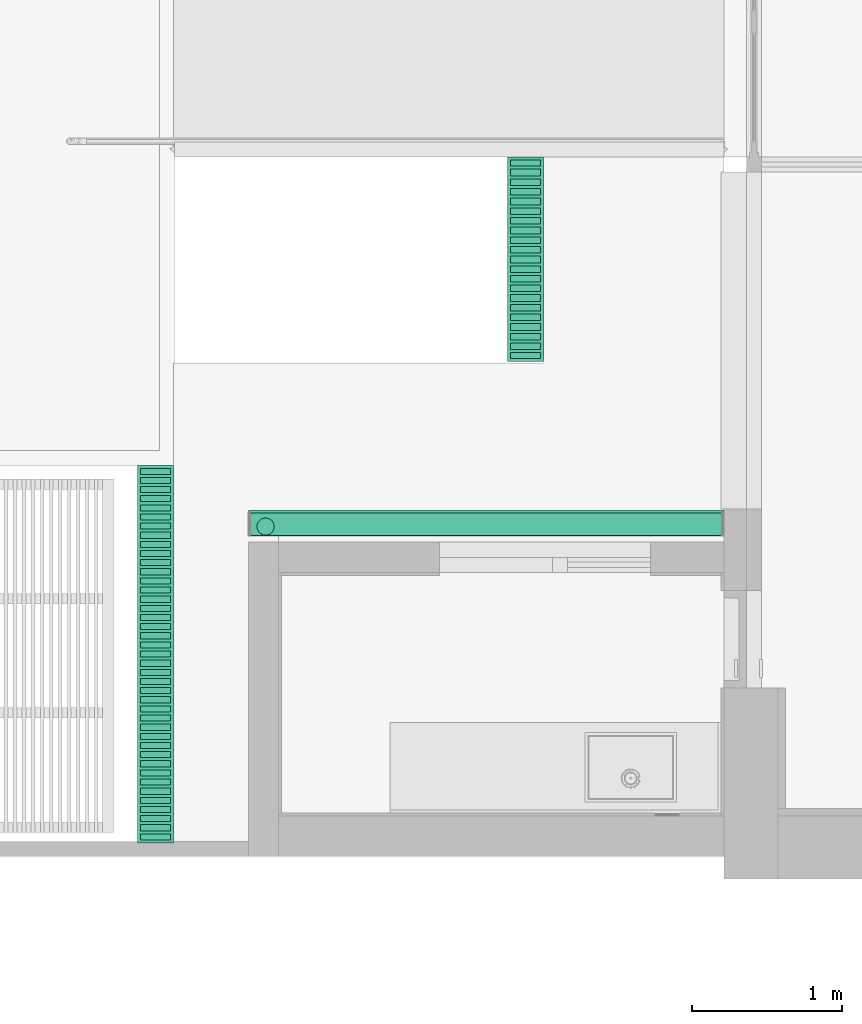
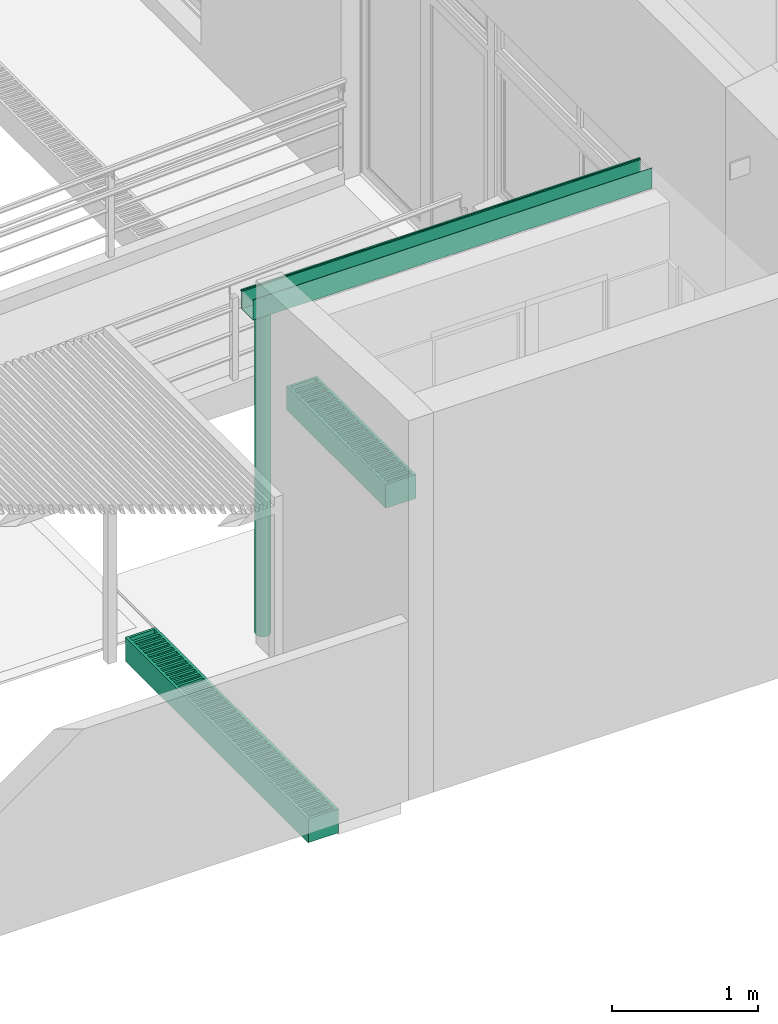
# One storey, part 59 of 75: 2 flow segments, 2 flow terminals.
"""IFC2X3 building model written with IfcOpenShell, lengths in metres."""

from ifc_helpers import new_model, entity, si_unit, converted_unit, derived_unit, direction, frame, origin, origin_2d_with_axis, place, context, subcontext, project, spatial, polyline, rectangle, circle, outline, extrude, source, transform, mapped, material, material_list, type_object, type_shapes, element, save


model = new_model("IFC2X3")

# Units and contexts
model_context = context("Model", 3, precision=1e-05, world=origin(), true_north=direction((6.12303176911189e-17, 1.0)))
body_context = subcontext(model_context, "Body", "Model", "MODEL_VIEW")
ifc_project = project(units=[si_unit("LENGTHUNIT", "METRE"), si_unit("AREAUNIT", "SQUARE_METRE"), si_unit("VOLUMEUNIT", "CUBIC_METRE"), converted_unit("PLANEANGLEUNIT", "DEGREE", entity("IfcRatioMeasure", 0.0174532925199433), si_unit("PLANEANGLEUNIT", "RADIAN"), dimensions=[0, 0, 0, 0, 0, 0, 0]), si_unit("MASSUNIT", "GRAM", prefix="KILO"), derived_unit("MASSDENSITYUNIT", [(si_unit("MASSUNIT", "GRAM", prefix="KILO"), 1), (si_unit("LENGTHUNIT", "METRE"), -3)]), derived_unit("MOMENTOFINERTIAUNIT", [(si_unit("LENGTHUNIT", "METRE"), 4)]), si_unit("TIMEUNIT", "SECOND"), si_unit("FREQUENCYUNIT", "HERTZ"), si_unit("THERMODYNAMICTEMPERATUREUNIT", "DEGREE_CELSIUS"), derived_unit("THERMALTRANSMITTANCEUNIT", [(si_unit("MASSUNIT", "GRAM", prefix="KILO"), 1), (si_unit("THERMODYNAMICTEMPERATUREUNIT", "KELVIN"), -1), (si_unit("TIMEUNIT", "SECOND"), -3)]), derived_unit("VOLUMETRICFLOWRATEUNIT", [(si_unit("LENGTHUNIT", "METRE"), 3), (si_unit("TIMEUNIT", "SECOND"), -1)]), si_unit("ELECTRICCURRENTUNIT", "AMPERE"), si_unit("ELECTRICVOLTAGEUNIT", "VOLT"), si_unit("POWERUNIT", "WATT"), si_unit("FORCEUNIT", "NEWTON", prefix="KILO"), si_unit("ILLUMINANCEUNIT", "LUX"), si_unit("LUMINOUSFLUXUNIT", "LUMEN"), si_unit("LUMINOUSINTENSITYUNIT", "CANDELA"), derived_unit("USERDEFINED", [(si_unit("MASSUNIT", "GRAM", prefix="KILO"), -1), (si_unit("LENGTHUNIT", "METRE"), -2), (si_unit("TIMEUNIT", "SECOND"), 3), (si_unit("LUMINOUSFLUXUNIT", "LUMEN"), 1)]), derived_unit("LINEARVELOCITYUNIT", [(si_unit("LENGTHUNIT", "METRE"), 1), (si_unit("TIMEUNIT", "SECOND"), -1)]), si_unit("PRESSUREUNIT", "PASCAL"), derived_unit("USERDEFINED", [(si_unit("LENGTHUNIT", "METRE"), -2), (si_unit("MASSUNIT", "GRAM", prefix="KILO"), 1), (si_unit("TIMEUNIT", "SECOND"), -2)]), derived_unit("LINEARFORCEUNIT", [(si_unit("MASSUNIT", "GRAM", prefix="KILO"), 1), (si_unit("LENGTHUNIT", "METRE"), 1), (si_unit("TIMEUNIT", "SECOND"), -2), (si_unit("LENGTHUNIT", "METRE"), -1)]), derived_unit("PLANARFORCEUNIT", [(si_unit("MASSUNIT", "GRAM", prefix="KILO"), 1), (si_unit("LENGTHUNIT", "METRE"), 1), (si_unit("TIMEUNIT", "SECOND"), -2), (si_unit("LENGTHUNIT", "METRE"), -2)])], contexts=[model_context])

# Site, building, storey
site_placement = place(None, origin())
site = spatial("IfcSite", under=ifc_project, at=site_placement, Name="Superficie", CompositionType="ELEMENT")
building_placement = place(site_placement, origin())
building = spatial("IfcBuilding", under=site, at=building_placement, Name="Telegestiones", CompositionType="ELEMENT")
storey_placement = place(building_placement, origin())
storey = spatial("IfcBuildingStorey", under=building, at=storey_placement, Name="Nivel 0_NPT", CompositionType="ELEMENT", Elevation=0.0)

# Flow segment
pipe_segment_type_1 = type_object("IfcPipeSegmentType", Name="Canalón:Canalón", PredefinedType="GUTTER")
shared_shape_1 = source(origin(), body_context, "Body", "SweptSolid", [
    extrude(outline(polyline([(-0.115532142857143, -0.110996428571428), (0.0417678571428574, -0.110996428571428), (0.0417678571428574, 0.0336035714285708), (0.054467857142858, 0.0336035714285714), (0.054467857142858, 0.0463035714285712), (0.0417678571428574, 0.0463035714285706), (0.0417678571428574, 0.0431285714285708), (0.0512928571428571, 0.0431285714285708), (0.0512928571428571, 0.0367785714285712), (0.0385928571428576, 0.0367785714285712), (0.0385928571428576, -0.107821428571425), (-0.112357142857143, -0.107821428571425), (-0.112357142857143, 0.0590035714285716), (-0.115532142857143, 0.0590035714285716), (-0.115532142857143, -0.110996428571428)])), frame((-7.64518737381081, -2.11086062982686, 2.64118381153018), z_axis=(1.0, 0.0, 0.0), x_axis=(0.0, 1.0, 0.0)), (0.0, 0.0, 1.0), 3.15999999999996),
])
type_shapes(pipe_segment_type_1, [shared_shape_1])
flow_segment_1_placement = place(storey_placement, origin())
element("IfcFlowSegment", 1, at=flow_segment_1_placement, inside=storey, type_object=pipe_segment_type_1, Name="Canalón:Canalón", ObjectType="Canalón:Canalón", context=body_context, shape_type="MappedRepresentation", body=[
    mapped(shared_shape_1, transform((0.0, 0.0, 0.0), scale=1.0)),
])

# Flow terminals
ifc_material = material(Name="Acero")
ifc_material_list_1 = material_list([ifc_material, ifc_material, ifc_material, ifc_material, ifc_material, ifc_material, ifc_material, ifc_material, ifc_material, ifc_material, ifc_material, ifc_material, ifc_material, ifc_material, ifc_material, ifc_material, ifc_material, ifc_material, ifc_material, ifc_material, ifc_material, ifc_material])
ifc_material_list_2 = material_list([ifc_material, ifc_material, ifc_material, ifc_material, ifc_material, ifc_material, ifc_material, ifc_material, ifc_material, ifc_material, ifc_material, ifc_material, ifc_material, ifc_material, ifc_material, ifc_material, ifc_material, ifc_material, ifc_material, ifc_material, ifc_material, ifc_material])
distribution_element_type_1 = type_object("IfcDistributionElementType", Name="ARQ-RE-EX-Ace:L=1.36m", material=ifc_material_list_2)
shared_shape_2 = source(origin(), body_context, "Body", "SweptSolid", [
    extrude(rectangle(XDim=0.0200000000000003, YDim=0.200000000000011, at=origin_2d_with_axis()), frame((0.54578947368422, 0.0, -0.020000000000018), z_axis=(0.0, 0.0, 1.0), x_axis=(-1.0, 0.0, 0.0)), (0.0, 0.0, 1.0), 0.02),
    extrude(rectangle(XDim=0.0200000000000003, YDim=0.200000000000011, at=origin_2d_with_axis()), frame((0.481578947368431, 0.0, -0.020000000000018), z_axis=(0.0, 0.0, 1.0), x_axis=(-1.0, 0.0, 0.0)), (0.0, 0.0, 1.0), 0.02),
    extrude(rectangle(XDim=0.0200000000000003, YDim=0.200000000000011, at=origin_2d_with_axis()), frame((0.417368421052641, 0.0, -0.020000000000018), z_axis=(0.0, 0.0, 1.0), x_axis=(-1.0, 0.0, 0.0)), (0.0, 0.0, 1.0), 0.02),
    extrude(rectangle(XDim=0.0200000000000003, YDim=0.200000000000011, at=origin_2d_with_axis()), frame((0.353157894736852, 0.0, -0.020000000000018), z_axis=(0.0, 0.0, 1.0), x_axis=(-1.0, 0.0, 0.0)), (0.0, 0.0, 1.0), 0.02),
    extrude(rectangle(XDim=0.0200000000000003, YDim=0.200000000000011, at=origin_2d_with_axis()), frame((0.288947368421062, 0.0, -0.020000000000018), z_axis=(0.0, 0.0, 1.0), x_axis=(-1.0, 0.0, 0.0)), (0.0, 0.0, 1.0), 0.02),
    extrude(rectangle(XDim=0.0200000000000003, YDim=0.200000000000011, at=origin_2d_with_axis()), frame((0.224736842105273, 0.0, -0.020000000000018), z_axis=(0.0, 0.0, 1.0), x_axis=(-1.0, 0.0, 0.0)), (0.0, 0.0, 1.0), 0.02),
    extrude(rectangle(XDim=0.0200000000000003, YDim=0.200000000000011, at=origin_2d_with_axis()), frame((0.160526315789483, 0.0, -0.020000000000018), z_axis=(0.0, 0.0, 1.0), x_axis=(-1.0, 0.0, 0.0)), (0.0, 0.0, 1.0), 0.02),
    extrude(rectangle(XDim=0.0200000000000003, YDim=0.200000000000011, at=origin_2d_with_axis()), frame((0.0963157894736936, 0.0, -0.020000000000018), z_axis=(0.0, 0.0, 1.0), x_axis=(-1.0, 0.0, 0.0)), (0.0, 0.0, 1.0), 0.02),
    extrude(rectangle(XDim=0.0200000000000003, YDim=0.200000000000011, at=origin_2d_with_axis()), frame((0.0321052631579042, 0.0, -0.020000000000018), z_axis=(0.0, 0.0, 1.0), x_axis=(-1.0, 0.0, 0.0)), (0.0, 0.0, 1.0), 0.02),
    extrude(rectangle(XDim=0.0200000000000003, YDim=0.200000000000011, at=origin_2d_with_axis()), frame((-0.0321052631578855, 0.0, -0.020000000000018), z_axis=(0.0, 0.0, 1.0), x_axis=(-1.0, 0.0, 0.0)), (0.0, 0.0, 1.0), 0.02),
    extrude(rectangle(XDim=0.0200000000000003, YDim=0.200000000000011, at=origin_2d_with_axis()), frame((-0.096315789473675, 0.0, -0.020000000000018), z_axis=(0.0, 0.0, 1.0), x_axis=(-1.0, 0.0, 0.0)), (0.0, 0.0, 1.0), 0.02),
    extrude(rectangle(XDim=0.0200000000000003, YDim=0.200000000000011, at=origin_2d_with_axis()), frame((-0.160526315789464, 0.0, -0.020000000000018), z_axis=(0.0, 0.0, 1.0), x_axis=(-1.0, 0.0, 0.0)), (0.0, 0.0, 1.0), 0.02),
    extrude(rectangle(XDim=0.0200000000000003, YDim=0.200000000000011, at=origin_2d_with_axis()), frame((-0.224736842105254, 0.0, -0.020000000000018), z_axis=(0.0, 0.0, 1.0), x_axis=(-1.0, 0.0, 0.0)), (0.0, 0.0, 1.0), 0.02),
    extrude(rectangle(XDim=0.0200000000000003, YDim=0.200000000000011, at=origin_2d_with_axis()), frame((-0.288947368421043, 0.0, -0.020000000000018), z_axis=(0.0, 0.0, 1.0), x_axis=(-1.0, 0.0, 0.0)), (0.0, 0.0, 1.0), 0.02),
    extrude(rectangle(XDim=0.0200000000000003, YDim=0.200000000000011, at=origin_2d_with_axis()), frame((-0.353157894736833, 0.0, -0.020000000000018), z_axis=(0.0, 0.0, 1.0), x_axis=(-1.0, 0.0, 0.0)), (0.0, 0.0, 1.0), 0.02),
    extrude(rectangle(XDim=0.0200000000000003, YDim=0.200000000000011, at=origin_2d_with_axis()), frame((-0.417368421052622, 0.0, -0.020000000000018), z_axis=(0.0, 0.0, 1.0), x_axis=(-1.0, 0.0, 0.0)), (0.0, 0.0, 1.0), 0.02),
    extrude(rectangle(XDim=0.0200000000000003, YDim=0.200000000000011, at=origin_2d_with_axis()), frame((-0.481578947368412, 0.0, -0.020000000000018), z_axis=(0.0, 0.0, 1.0), x_axis=(-1.0, 0.0, 0.0)), (0.0, 0.0, 1.0), 0.02),
    extrude(rectangle(XDim=0.0200000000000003, YDim=0.200000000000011, at=origin_2d_with_axis()), frame((-0.545789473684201, 0.0, -0.020000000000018), z_axis=(0.0, 0.0, 1.0), x_axis=(-1.0, 0.0, 0.0)), (0.0, 0.0, 1.0), 0.02),
    extrude(rectangle(XDim=0.0200000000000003, YDim=0.200000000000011, at=origin_2d_with_axis()), frame((0.61000000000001, 0.0, -0.020000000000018), z_axis=(0.0, 0.0, 1.0), x_axis=(-1.0, 0.0, 0.0)), (0.0, 0.0, 1.0), 0.02),
    extrude(rectangle(XDim=0.0200000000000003, YDim=0.200000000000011, at=origin_2d_with_axis()), frame((-0.609999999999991, 0.0, -0.020000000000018), z_axis=(0.0, 0.0, 1.0), x_axis=(-1.0, 0.0, 0.0)), (0.0, 0.0, 1.0), 0.02),
    extrude(rectangle(XDim=1.32, YDim=0.200000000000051, at=origin_2d_with_axis()), frame((0.0, 0.0, -0.200000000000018), z_axis=(0.0, 0.0, 1.0), x_axis=(-1.0, 0.0, 0.0)), (0.0, 0.0, 1.0), 0.02),
    extrude(outline(polyline([(-0.68, -0.12), (0.68, -0.12), (0.68, 0.12), (-0.68, 0.12), (-0.68, -0.12)]), holes=[polyline([(-0.660000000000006, -0.100000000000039), (-0.660000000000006, 0.100000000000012), (0.659999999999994, 0.100000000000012), (0.659999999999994, -0.100000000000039), (-0.660000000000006, -0.100000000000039)])]), frame((0.0, 0.0, -0.200000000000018), z_axis=(0.0, 0.0, 1.0), x_axis=(-1.0, 0.0, 0.0)), (0.0, 0.0, 1.0), 0.2),
])
type_shapes(distribution_element_type_1, [shared_shape_2])
flow_terminal_1_placement = place(storey_placement, frame((-5.80518737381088, -0.386392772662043, -0.15), z_axis=(0.0, 0.0, 1.0), x_axis=(0.0, 1.0, 0.0)))
element("IfcFlowTerminal", 2, at=flow_terminal_1_placement, inside=storey, type_object=distribution_element_type_1, material=ifc_material_list_1, Name="ARQ-RE-EX-Ace:L=1.36m", ObjectType="ARQ-RE-EX-Ace:L=1.36m", context=body_context, shape_type="MappedRepresentation", body=[
    mapped(shared_shape_2, transform((0.0, 0.0, 0.0), scale=1.0)),
])
ifc_material_list_3 = material_list([ifc_material, ifc_material, ifc_material, ifc_material, ifc_material, ifc_material, ifc_material, ifc_material, ifc_material, ifc_material, ifc_material, ifc_material, ifc_material, ifc_material, ifc_material, ifc_material, ifc_material, ifc_material, ifc_material, ifc_material, ifc_material, ifc_material, ifc_material, ifc_material, ifc_material, ifc_material, ifc_material, ifc_material, ifc_material, ifc_material, ifc_material, ifc_material, ifc_material, ifc_material, ifc_material, ifc_material, ifc_material, ifc_material, ifc_material, ifc_material, ifc_material, ifc_material])
ifc_material_list_4 = material_list([ifc_material, ifc_material, ifc_material, ifc_material, ifc_material, ifc_material, ifc_material, ifc_material, ifc_material, ifc_material, ifc_material, ifc_material, ifc_material, ifc_material, ifc_material, ifc_material, ifc_material, ifc_material, ifc_material, ifc_material, ifc_material, ifc_material, ifc_material, ifc_material, ifc_material, ifc_material, ifc_material, ifc_material, ifc_material, ifc_material, ifc_material, ifc_material, ifc_material, ifc_material, ifc_material, ifc_material, ifc_material, ifc_material, ifc_material, ifc_material, ifc_material, ifc_material])
distribution_element_type_2 = type_object("IfcDistributionElementType", Name="ARQ-RE-EX-Ace:L=2.51m", material=ifc_material_list_4)
shared_shape_3 = source(origin(), body_context, "Body", "SweptSolid", [
    extrude(rectangle(XDim=0.0200000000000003, YDim=0.200000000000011, at=origin_2d_with_axis()), frame((1.12423076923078, 0.0, -0.020000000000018), z_axis=(0.0, 0.0, 1.0), x_axis=(-1.0, 0.0, 0.0)), (0.0, 0.0, 1.0), 0.02),
    extrude(rectangle(XDim=0.0200000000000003, YDim=0.200000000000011, at=origin_2d_with_axis()), frame((1.06346153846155, 0.0, -0.020000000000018), z_axis=(0.0, 0.0, 1.0), x_axis=(-1.0, 0.0, 0.0)), (0.0, 0.0, 1.0), 0.02),
    extrude(rectangle(XDim=0.0200000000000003, YDim=0.200000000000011, at=origin_2d_with_axis()), frame((1.00269230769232, 0.0, -0.020000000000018), z_axis=(0.0, 0.0, 1.0), x_axis=(-1.0, 0.0, 0.0)), (0.0, 0.0, 1.0), 0.02),
    extrude(rectangle(XDim=0.0200000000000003, YDim=0.200000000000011, at=origin_2d_with_axis()), frame((0.941923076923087, 0.0, -0.020000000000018), z_axis=(0.0, 0.0, 1.0), x_axis=(-1.0, 0.0, 0.0)), (0.0, 0.0, 1.0), 0.02),
    extrude(rectangle(XDim=0.0200000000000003, YDim=0.200000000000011, at=origin_2d_with_axis()), frame((0.881153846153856, 0.0, -0.020000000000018), z_axis=(0.0, 0.0, 1.0), x_axis=(-1.0, 0.0, 0.0)), (0.0, 0.0, 1.0), 0.02),
    extrude(rectangle(XDim=0.0200000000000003, YDim=0.200000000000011, at=origin_2d_with_axis()), frame((0.820384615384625, 0.0, -0.020000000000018), z_axis=(0.0, 0.0, 1.0), x_axis=(-1.0, 0.0, 0.0)), (0.0, 0.0, 1.0), 0.02),
    extrude(rectangle(XDim=0.0200000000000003, YDim=0.200000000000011, at=origin_2d_with_axis()), frame((0.759615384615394, 0.0, -0.020000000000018), z_axis=(0.0, 0.0, 1.0), x_axis=(-1.0, 0.0, 0.0)), (0.0, 0.0, 1.0), 0.02),
    extrude(rectangle(XDim=0.0200000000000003, YDim=0.200000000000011, at=origin_2d_with_axis()), frame((0.698846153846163, 0.0, -0.020000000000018), z_axis=(0.0, 0.0, 1.0), x_axis=(-1.0, 0.0, 0.0)), (0.0, 0.0, 1.0), 0.02),
    extrude(rectangle(XDim=0.0200000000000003, YDim=0.200000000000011, at=origin_2d_with_axis()), frame((0.638076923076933, 0.0, -0.020000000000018), z_axis=(0.0, 0.0, 1.0), x_axis=(-1.0, 0.0, 0.0)), (0.0, 0.0, 1.0), 0.02),
    extrude(rectangle(XDim=0.0200000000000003, YDim=0.200000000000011, at=origin_2d_with_axis()), frame((0.577307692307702, 0.0, -0.020000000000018), z_axis=(0.0, 0.0, 1.0), x_axis=(-1.0, 0.0, 0.0)), (0.0, 0.0, 1.0), 0.02),
    extrude(rectangle(XDim=0.0200000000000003, YDim=0.200000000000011, at=origin_2d_with_axis()), frame((0.516538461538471, 0.0, -0.020000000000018), z_axis=(0.0, 0.0, 1.0), x_axis=(-1.0, 0.0, 0.0)), (0.0, 0.0, 1.0), 0.02),
    extrude(rectangle(XDim=0.0200000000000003, YDim=0.200000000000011, at=origin_2d_with_axis()), frame((0.45576923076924, 0.0, -0.020000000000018), z_axis=(0.0, 0.0, 1.0), x_axis=(-1.0, 0.0, 0.0)), (0.0, 0.0, 1.0), 0.02),
    extrude(rectangle(XDim=0.0200000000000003, YDim=0.200000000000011, at=origin_2d_with_axis()), frame((0.39500000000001, 0.0, -0.020000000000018), z_axis=(0.0, 0.0, 1.0), x_axis=(-1.0, 0.0, 0.0)), (0.0, 0.0, 1.0), 0.02),
    extrude(rectangle(XDim=0.0200000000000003, YDim=0.200000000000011, at=origin_2d_with_axis()), frame((0.334230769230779, 0.0, -0.020000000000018), z_axis=(0.0, 0.0, 1.0), x_axis=(-1.0, 0.0, 0.0)), (0.0, 0.0, 1.0), 0.02),
    extrude(rectangle(XDim=0.0200000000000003, YDim=0.200000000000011, at=origin_2d_with_axis()), frame((0.273461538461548, 0.0, -0.020000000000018), z_axis=(0.0, 0.0, 1.0), x_axis=(-1.0, 0.0, 0.0)), (0.0, 0.0, 1.0), 0.02),
    extrude(rectangle(XDim=0.0200000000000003, YDim=0.200000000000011, at=origin_2d_with_axis()), frame((0.212692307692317, 0.0, -0.020000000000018), z_axis=(0.0, 0.0, 1.0), x_axis=(-1.0, 0.0, 0.0)), (0.0, 0.0, 1.0), 0.02),
    extrude(rectangle(XDim=0.0200000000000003, YDim=0.200000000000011, at=origin_2d_with_axis()), frame((0.151923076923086, 0.0, -0.020000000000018), z_axis=(0.0, 0.0, 1.0), x_axis=(-1.0, 0.0, 0.0)), (0.0, 0.0, 1.0), 0.02),
    extrude(rectangle(XDim=0.0200000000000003, YDim=0.200000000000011, at=origin_2d_with_axis()), frame((0.0911538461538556, 0.0, -0.020000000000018), z_axis=(0.0, 0.0, 1.0), x_axis=(-1.0, 0.0, 0.0)), (0.0, 0.0, 1.0), 0.02),
    extrude(rectangle(XDim=0.0200000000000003, YDim=0.200000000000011, at=origin_2d_with_axis()), frame((0.0303846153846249, 0.0, -0.020000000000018), z_axis=(0.0, 0.0, 1.0), x_axis=(-1.0, 0.0, 0.0)), (0.0, 0.0, 1.0), 0.02),
    extrude(rectangle(XDim=0.0200000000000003, YDim=0.200000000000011, at=origin_2d_with_axis()), frame((-0.0303846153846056, 0.0, -0.020000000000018), z_axis=(0.0, 0.0, 1.0), x_axis=(-1.0, 0.0, 0.0)), (0.0, 0.0, 1.0), 0.02),
    extrude(rectangle(XDim=0.0200000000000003, YDim=0.200000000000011, at=origin_2d_with_axis()), frame((-0.0911538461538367, 0.0, -0.020000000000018), z_axis=(0.0, 0.0, 1.0), x_axis=(-1.0, 0.0, 0.0)), (0.0, 0.0, 1.0), 0.02),
    extrude(rectangle(XDim=0.0200000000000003, YDim=0.200000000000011, at=origin_2d_with_axis()), frame((-0.151923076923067, 0.0, -0.020000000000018), z_axis=(0.0, 0.0, 1.0), x_axis=(-1.0, 0.0, 0.0)), (0.0, 0.0, 1.0), 0.02),
    extrude(rectangle(XDim=0.0200000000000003, YDim=0.200000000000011, at=origin_2d_with_axis()), frame((-0.212692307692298, 0.0, -0.020000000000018), z_axis=(0.0, 0.0, 1.0), x_axis=(-1.0, 0.0, 0.0)), (0.0, 0.0, 1.0), 0.02),
    extrude(rectangle(XDim=0.0200000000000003, YDim=0.200000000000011, at=origin_2d_with_axis()), frame((-0.273461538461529, 0.0, -0.020000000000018), z_axis=(0.0, 0.0, 1.0), x_axis=(-1.0, 0.0, 0.0)), (0.0, 0.0, 1.0), 0.02),
    extrude(rectangle(XDim=0.0200000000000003, YDim=0.200000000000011, at=origin_2d_with_axis()), frame((-0.33423076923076, 0.0, -0.020000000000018), z_axis=(0.0, 0.0, 1.0), x_axis=(-1.0, 0.0, 0.0)), (0.0, 0.0, 1.0), 0.02),
    extrude(rectangle(XDim=0.0200000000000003, YDim=0.200000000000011, at=origin_2d_with_axis()), frame((-0.39499999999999, 0.0, -0.020000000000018), z_axis=(0.0, 0.0, 1.0), x_axis=(-1.0, 0.0, 0.0)), (0.0, 0.0, 1.0), 0.02),
    extrude(rectangle(XDim=0.0200000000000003, YDim=0.200000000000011, at=origin_2d_with_axis()), frame((-0.455769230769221, 0.0, -0.020000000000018), z_axis=(0.0, 0.0, 1.0), x_axis=(-1.0, 0.0, 0.0)), (0.0, 0.0, 1.0), 0.02),
    extrude(rectangle(XDim=0.0200000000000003, YDim=0.200000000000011, at=origin_2d_with_axis()), frame((-0.516538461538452, 0.0, -0.020000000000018), z_axis=(0.0, 0.0, 1.0), x_axis=(-1.0, 0.0, 0.0)), (0.0, 0.0, 1.0), 0.02),
    extrude(rectangle(XDim=0.0200000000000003, YDim=0.200000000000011, at=origin_2d_with_axis()), frame((-0.577307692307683, 0.0, -0.020000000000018), z_axis=(0.0, 0.0, 1.0), x_axis=(-1.0, 0.0, 0.0)), (0.0, 0.0, 1.0), 0.02),
    extrude(rectangle(XDim=0.0200000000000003, YDim=0.200000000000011, at=origin_2d_with_axis()), frame((-0.638076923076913, 0.0, -0.020000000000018), z_axis=(0.0, 0.0, 1.0), x_axis=(-1.0, 0.0, 0.0)), (0.0, 0.0, 1.0), 0.02),
    extrude(rectangle(XDim=0.0200000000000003, YDim=0.200000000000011, at=origin_2d_with_axis()), frame((-0.698846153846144, 0.0, -0.020000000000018), z_axis=(0.0, 0.0, 1.0), x_axis=(-1.0, 0.0, 0.0)), (0.0, 0.0, 1.0), 0.02),
    extrude(rectangle(XDim=0.0200000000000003, YDim=0.200000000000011, at=origin_2d_with_axis()), frame((-0.759615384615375, 0.0, -0.020000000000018), z_axis=(0.0, 0.0, 1.0), x_axis=(-1.0, 0.0, 0.0)), (0.0, 0.0, 1.0), 0.02),
    extrude(rectangle(XDim=0.0200000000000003, YDim=0.200000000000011, at=origin_2d_with_axis()), frame((-0.820384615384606, 0.0, -0.020000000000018), z_axis=(0.0, 0.0, 1.0), x_axis=(-1.0, 0.0, 0.0)), (0.0, 0.0, 1.0), 0.02),
    extrude(rectangle(XDim=0.0200000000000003, YDim=0.200000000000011, at=origin_2d_with_axis()), frame((-0.881153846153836, 0.0, -0.020000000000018), z_axis=(0.0, 0.0, 1.0), x_axis=(-1.0, 0.0, 0.0)), (0.0, 0.0, 1.0), 0.02),
    extrude(rectangle(XDim=0.0200000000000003, YDim=0.200000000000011, at=origin_2d_with_axis()), frame((-0.941923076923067, 0.0, -0.020000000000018), z_axis=(0.0, 0.0, 1.0), x_axis=(-1.0, 0.0, 0.0)), (0.0, 0.0, 1.0), 0.02),
    extrude(rectangle(XDim=0.0200000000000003, YDim=0.200000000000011, at=origin_2d_with_axis()), frame((-1.0026923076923, 0.0, -0.020000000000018), z_axis=(0.0, 0.0, 1.0), x_axis=(-1.0, 0.0, 0.0)), (0.0, 0.0, 1.0), 0.02),
    extrude(rectangle(XDim=0.0200000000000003, YDim=0.200000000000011, at=origin_2d_with_axis()), frame((-1.06346153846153, 0.0, -0.020000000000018), z_axis=(0.0, 0.0, 1.0), x_axis=(-1.0, 0.0, 0.0)), (0.0, 0.0, 1.0), 0.02),
    extrude(rectangle(XDim=0.0200000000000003, YDim=0.200000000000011, at=origin_2d_with_axis()), frame((-1.12423076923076, 0.0, -0.020000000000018), z_axis=(0.0, 0.0, 1.0), x_axis=(-1.0, 0.0, 0.0)), (0.0, 0.0, 1.0), 0.02),
    extrude(rectangle(XDim=0.0200000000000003, YDim=0.200000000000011, at=origin_2d_with_axis()), frame((1.18500000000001, 0.0, -0.020000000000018), z_axis=(0.0, 0.0, 1.0), x_axis=(-1.0, 0.0, 0.0)), (0.0, 0.0, 1.0), 0.02),
    extrude(rectangle(XDim=0.0200000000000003, YDim=0.200000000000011, at=origin_2d_with_axis()), frame((-1.18499999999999, 0.0, -0.020000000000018), z_axis=(0.0, 0.0, 1.0), x_axis=(-1.0, 0.0, 0.0)), (0.0, 0.0, 1.0), 0.02),
    extrude(rectangle(XDim=2.47, YDim=0.200000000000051, at=origin_2d_with_axis()), frame((0.0, 0.0, -0.200000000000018), z_axis=(0.0, 0.0, 1.0), x_axis=(-1.0, 0.0, 0.0)), (0.0, 0.0, 1.0), 0.02),
    extrude(outline(polyline([(-1.255, -0.12), (1.255, -0.12), (1.255, 0.12), (-1.255, 0.12), (-1.255, -0.12)]), holes=[polyline([(-1.23500000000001, -0.100000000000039), (-1.23500000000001, 0.100000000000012), (1.23499999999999, 0.100000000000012), (1.23499999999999, -0.100000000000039), (-1.23500000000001, -0.100000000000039)])]), frame((0.0, 0.0, -0.200000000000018), z_axis=(0.0, 0.0, 1.0), x_axis=(-1.0, 0.0, 0.0)), (0.0, 0.0, 1.0), 0.2),
])
type_shapes(distribution_element_type_2, [shared_shape_3])
flow_terminal_2_placement = place(storey_placement, frame((-8.2651873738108, -3.01000659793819, -0.15), z_axis=(0.0, 0.0, 1.0), x_axis=(0.0, 1.0, 0.0)))
element("IfcFlowTerminal", 3, at=flow_terminal_2_placement, inside=storey, type_object=distribution_element_type_2, material=ifc_material_list_3, Name="ARQ-RE-EX-Ace:L=2.51m", ObjectType="ARQ-RE-EX-Ace:L=2.51m", context=body_context, shape_type="MappedRepresentation", body=[
    mapped(shared_shape_3, transform((0.0, 0.0, 0.0), scale=1.0)),
])

# Flow segment
pipe_segment_type_2 = type_object("IfcPipeSegmentType", Name="Tipos de tubería:Por defecto", PredefinedType="NOTDEFINED")
flow_segment_2_placement = place(storey_placement, origin())
element("IfcFlowSegment", 4, at=flow_segment_2_placement, inside=storey, type_object=pipe_segment_type_2, Name="Tipos de tubería:Por defecto", ObjectType="Tipos de tubería:Por defecto", context=body_context, shape_type="SweptSolid", body=[
    extrude(circle(Radius=0.05715, at=origin_2d_with_axis()), frame((-7.53261318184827, -2.16234260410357, -0.159999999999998)), (0.0, 0.0, 1.0), 2.7),
])

save(model, "model.ifc")
